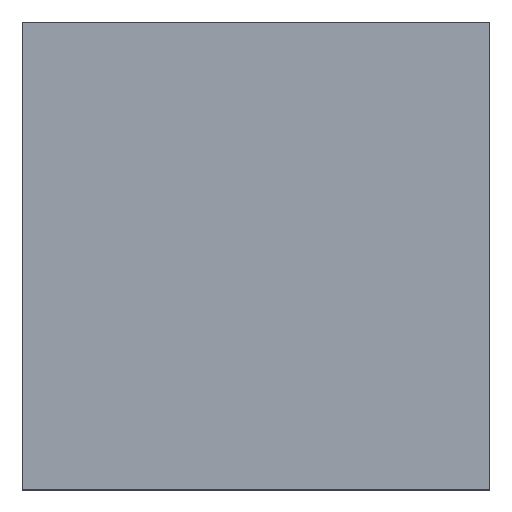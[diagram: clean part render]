
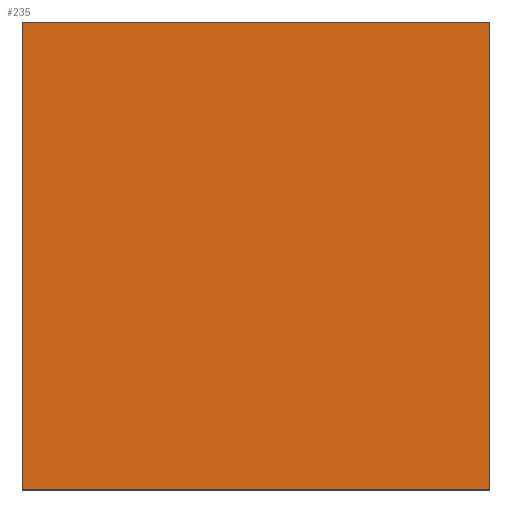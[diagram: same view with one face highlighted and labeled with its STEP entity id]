
A CAD part, top view. The second image highlights one B-rep face of the part: STEP entity #235.
In plain terms, the highlighted planar face has unit normal (0, 0, 1).
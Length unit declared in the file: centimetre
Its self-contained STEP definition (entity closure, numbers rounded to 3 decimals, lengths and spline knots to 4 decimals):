
#9 = DIRECTION ( 'NONE',  ( 0., 0., 1. ) ) ;
#19 = ORIENTED_EDGE ( 'NONE', *, *, #120, .T. ) ;
#28 = VECTOR ( 'NONE', #81, 100. ) ;
#33 = VECTOR ( 'NONE', #399, 100. ) ;
#40 = CARTESIAN_POINT ( 'NONE',  ( 0., 1000., 1000. ) ) ;
#48 = CARTESIAN_POINT ( 'NONE',  ( 0., 0., 1000. ) ) ;
#81 = DIRECTION ( 'NONE',  ( 0., 1., 0. ) ) ;
#92 = CARTESIAN_POINT ( 'NONE',  ( 1000., 1000., 1000. ) ) ;
#96 = ORIENTED_EDGE ( 'NONE', *, *, #310, .T. ) ;
#120 = EDGE_CURVE ( 'NONE', #204, #199, #145, .T. ) ;
#126 = VECTOR ( 'NONE', #132, 100. ) ;
#132 = DIRECTION ( 'NONE',  ( 1., 0., 0. ) ) ;
#145 = LINE ( 'NONE', #48, #126 ) ;
#156 = LINE ( 'NONE', #258, #489 ) ;
#199 = VERTEX_POINT ( 'NONE', #248 ) ;
#204 = VERTEX_POINT ( 'NONE', #242 ) ;
#235 = ADVANCED_FACE ( 'NONE', ( #384 ), #506, .T. ) ;
#242 = CARTESIAN_POINT ( 'NONE',  ( 0., 0., 1000. ) ) ;
#243 = DIRECTION ( 'NONE',  ( 0., -1., 0. ) ) ;
#244 = AXIS2_PLACEMENT_3D ( 'NONE', #388, #9, #508 ) ;
#248 = CARTESIAN_POINT ( 'NONE',  ( 1000., 0., 1000. ) ) ;
#258 = CARTESIAN_POINT ( 'NONE',  ( 0., 1000., 1000. ) ) ;
#281 = EDGE_CURVE ( 'NONE', #329, #204, #156, .T. ) ;
#292 = LINE ( 'NONE', #460, #28 ) ;
#298 = EDGE_LOOP ( 'NONE', ( #331, #19, #96, #303 ) ) ;
#303 = ORIENTED_EDGE ( 'NONE', *, *, #479, .T. ) ;
#308 = CARTESIAN_POINT ( 'NONE',  ( 0., 1000., 1000. ) ) ;
#310 = EDGE_CURVE ( 'NONE', #199, #338, #292, .T. ) ;
#329 = VERTEX_POINT ( 'NONE', #40 ) ;
#331 = ORIENTED_EDGE ( 'NONE', *, *, #281, .T. ) ;
#338 = VERTEX_POINT ( 'NONE', #92 ) ;
#352 = LINE ( 'NONE', #308, #33 ) ;
#384 = FACE_OUTER_BOUND ( 'NONE', #298, .T. ) ;
#388 = CARTESIAN_POINT ( 'NONE',  ( 0., 0., 1000. ) ) ;
#399 = DIRECTION ( 'NONE',  ( -1., 0., 0. ) ) ;
#460 = CARTESIAN_POINT ( 'NONE',  ( 1000., 1000., 1000. ) ) ;
#479 = EDGE_CURVE ( 'NONE', #338, #329, #352, .T. ) ;
#489 = VECTOR ( 'NONE', #243, 100. ) ;
#506 = PLANE ( 'NONE',  #244 ) ;
#508 = DIRECTION ( 'NONE',  ( 1., 0., 0. ) ) ;
